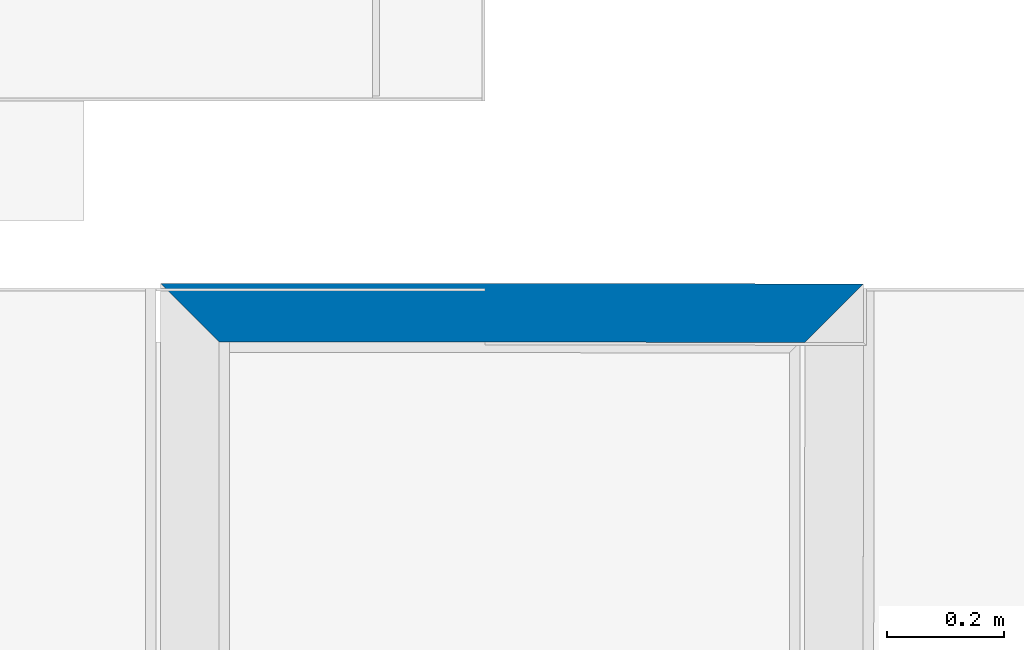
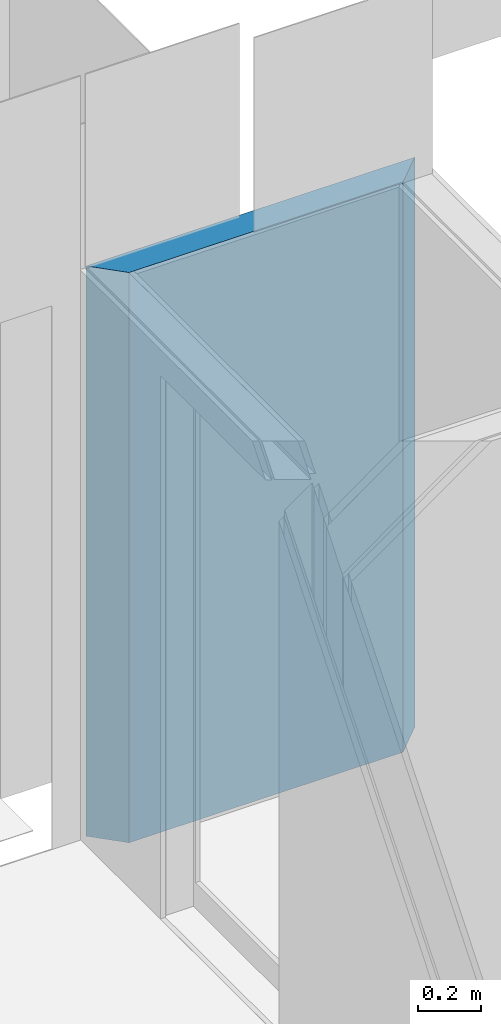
# One storey, part 1 of 33: 1 wall.
"""IFC2X3 building model written with IfcOpenShell, lengths in millimetres."""

from ifc_helpers import new_model, entity, si_unit, converted_unit, derived_unit, money_unit, direction, frame, origin_with_axes, place, context, subcontext, project, spatial, polyline, outline, extrude, material, layer, layer_set, layer_usage, type_object, element, save


model = new_model("IFC2X3")

# Units and contexts
model_context = context("Model", 3, precision=0.01, world=origin_with_axes(), true_north=direction((0.0, 1.0)))
body_context = subcontext(model_context, "Body", "Model", "MODEL_VIEW")
ifc_project = project(units=[si_unit("LENGTHUNIT", "METRE", prefix="MILLI"), si_unit("AREAUNIT", "SQUARE_METRE"), si_unit("VOLUMEUNIT", "CUBIC_METRE"), converted_unit("PLANEANGLEUNIT", "DEGREE", entity("IfcPlaneAngleMeasure", 0.0174532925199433), si_unit("PLANEANGLEUNIT", "RADIAN"), dimensions=[0, 0, 0, 0, 0, 0, 0]), money_unit("EUR"), converted_unit("TIMEUNIT", "Year", entity("IfcTimeMeasure", 31556926.0), si_unit("TIMEUNIT", "SECOND"), dimensions=[0, 0, 1, 0, 0, 0, 0]), si_unit("MASSUNIT", "GRAM", prefix="KILO"), si_unit("THERMODYNAMICTEMPERATUREUNIT", "DEGREE_CELSIUS"), si_unit("LUMINOUSINTENSITYUNIT", "LUMEN"), si_unit("ENERGYUNIT", "JOULE", prefix="MEGA"), derived_unit("THERMALCONDUCTANCEUNIT", [(si_unit("POWERUNIT", "WATT"), 1), (si_unit("LENGTHUNIT", "METRE"), -1), (si_unit("THERMODYNAMICTEMPERATUREUNIT", "KELVIN"), -1)]), derived_unit("SPECIFICHEATCAPACITYUNIT", [(si_unit("ENERGYUNIT", "JOULE"), 1), (si_unit("MASSUNIT", "GRAM", prefix="KILO"), -1), (si_unit("THERMODYNAMICTEMPERATUREUNIT", "KELVIN"), -1)]), derived_unit("MASSDENSITYUNIT", [(si_unit("MASSUNIT", "GRAM", prefix="KILO"), 1), (si_unit("VOLUMEUNIT", "CUBIC_METRE"), -1)])], contexts=[model_context])

# Site, building, storey
site_placement = place(None, origin_with_axes())
site = spatial("IfcSite", under=ifc_project, at=site_placement, Name="Paldiski mnt 245/1, Tallinn, Harjumaa", CompositionType="COMPLEX")
building_placement = place(site_placement, origin_with_axes())
building = spatial("IfcBuilding", under=site, at=building_placement, Name="RKAS Hoone üldnimetus (kasutust iseloomustav) -> IFC Project Manager -> SOLIBRI", CompositionType="ELEMENT")
storey_placement = place(building_placement, origin_with_axes())
storey = spatial("IfcBuildingStorey", under=building, at=storey_placement, Name="Esimene korrus", CompositionType="ELEMENT", Elevation=0.0)

# Wall
ifc_material = material(Name="KON-00_GENEERILINE - KONSTRUKTSIOON")
ifc_layer = layer(ifc_material, 100.0, ventilated="UNKNOWN")
ifc_layer_set = layer_set([ifc_layer], Name="KON-00_GENEERILINE - KONSTRUKTSIOON 100")
ifc_layer_usage = layer_usage(ifc_layer_set, "AXIS2", "NEGATIVE", 100.0)
wall_type = type_object("IfcWallType", Name="KON-00_GENEERILINE - KONSTRUKTSIOON 100", PredefinedType="NOTDEFINED")
wall_placement = place(storey_placement, frame((-43914.2596724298, -102.4228576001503, 0.0), z_axis=(0.0, 0.0, 1.0), x_axis=(-0.9999997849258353, 0.0006558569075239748, 0.0)))
element("IfcWallStandardCase", 1, at=wall_placement, inside=storey, type_object=wall_type, material=ifc_layer_usage, Name="SS-62", context=body_context, shape_type="SweptSolid", body=[
    extrude(outline(polyline([(0.0, 0.0), (1200.000000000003, 0.0), (1100.000000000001, 100.0), (100.0000000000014, 100.0), (0.0, 0.0)])), origin_with_axes(), (0.0, 0.0, 1.0), 2200.0),
])

save(model, "model.ifc")
